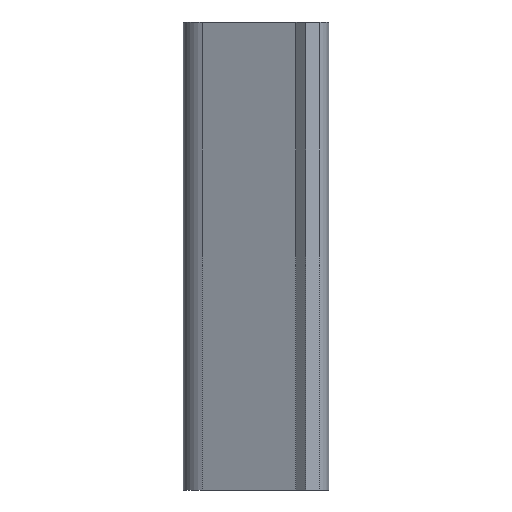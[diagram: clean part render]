
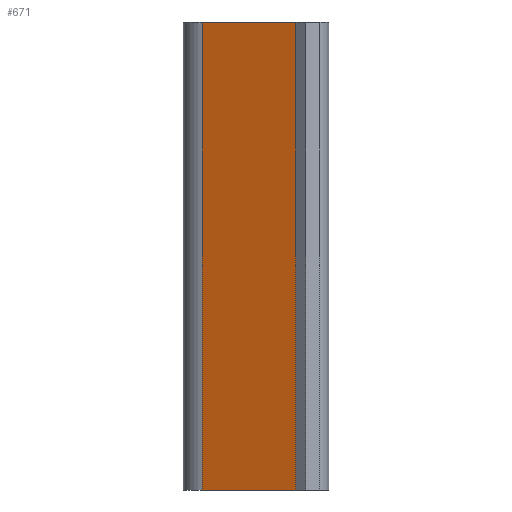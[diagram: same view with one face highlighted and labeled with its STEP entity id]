
A CAD part, left-side view. The second image highlights one B-rep face of the part: STEP entity #671.
In plain terms, the highlighted planar face has unit normal (-0.929, 0.369, 0).
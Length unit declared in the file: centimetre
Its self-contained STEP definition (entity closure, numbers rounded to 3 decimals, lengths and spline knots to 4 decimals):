
#38=PLANE('',#737);
#67=FACE_OUTER_BOUND('',#109,.T.);
#109=EDGE_LOOP('',(#546,#547,#548,#549));
#203=LINE('',#1113,#267);
#204=LINE('',#1119,#268);
#205=LINE('',#1120,#269);
#206=LINE('',#1121,#270);
#267=VECTOR('',#909,0.1);
#268=VECTOR('',#916,0.1);
#269=VECTOR('',#917,0.1);
#270=VECTOR('',#918,0.1);
#336=VERTEX_POINT('',#1111);
#337=VERTEX_POINT('',#1112);
#338=VERTEX_POINT('',#1117);
#339=VERTEX_POINT('',#1118);
#423=EDGE_CURVE('',#336,#337,#203,.T.);
#426=EDGE_CURVE('',#338,#339,#204,.T.);
#427=EDGE_CURVE('',#338,#336,#205,.T.);
#428=EDGE_CURVE('',#337,#339,#206,.T.);
#546=ORIENTED_EDGE('',*,*,#426,.F.);
#547=ORIENTED_EDGE('',*,*,#427,.T.);
#548=ORIENTED_EDGE('',*,*,#423,.T.);
#549=ORIENTED_EDGE('',*,*,#428,.T.);
#671=ADVANCED_FACE('',(#67),#38,.T.);
#737=AXIS2_PLACEMENT_3D('',#1116,#914,#915);
#909=DIRECTION('',(0.,0.,1.));
#914=DIRECTION('center_axis',(-0.929,0.369,0.));
#915=DIRECTION('ref_axis',(0.,0.,1.));
#916=DIRECTION('',(0.,0.,1.));
#917=DIRECTION('',(-0.369,-0.929,0.));
#918=DIRECTION('',(0.369,0.929,0.));
#1111=CARTESIAN_POINT('',(31.1581,36.3549,0.));
#1112=CARTESIAN_POINT('',(31.1581,36.3549,13.8));
#1113=CARTESIAN_POINT('',(31.1581,36.3549,-1.5));
#1116=CARTESIAN_POINT('Origin',(31.1581,36.3549,0.));
#1117=CARTESIAN_POINT('',(32.3572,39.372,0.));
#1118=CARTESIAN_POINT('',(32.3572,39.372,13.8));
#1119=CARTESIAN_POINT('',(32.3572,39.372,-1.5));
#1120=CARTESIAN_POINT('',(32.3572,39.372,0.));
#1121=CARTESIAN_POINT('',(32.3572,39.372,13.8));
